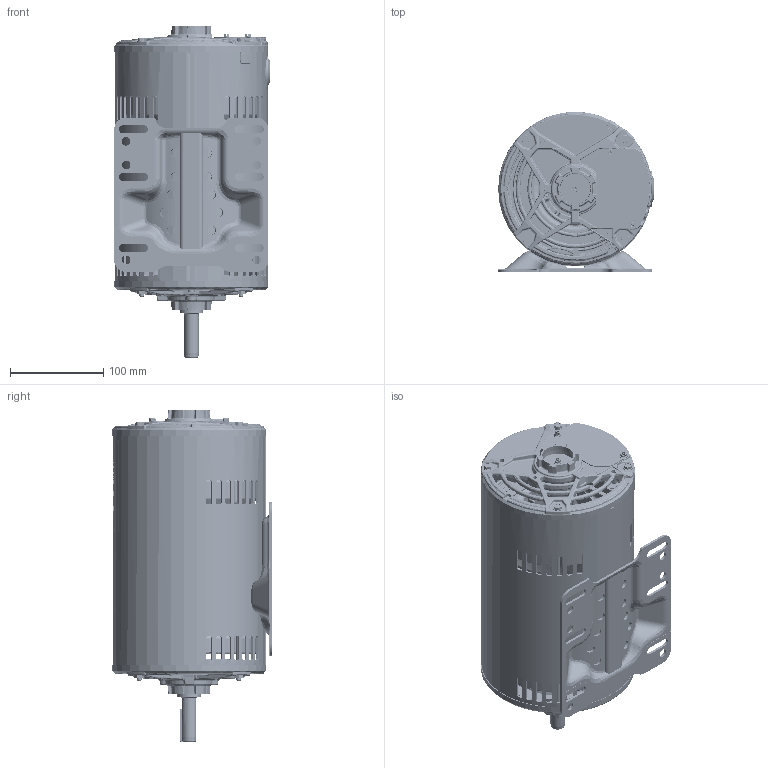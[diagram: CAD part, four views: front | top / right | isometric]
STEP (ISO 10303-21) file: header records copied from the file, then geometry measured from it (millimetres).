
FILE_DESCRIPTION (( 'STEP AP203' ), '1' );
FILE_NAME ('OL56100630-001_RevA.STEP', '2019-05-16T09:13:08', ( '' ), ( '' ), 'SwSTEP 2.0', 'SolidWorks 2015', '' );
FILE_SCHEMA (( 'CONFIG_CONTROL_DESIGN' ));
Length unit declared in the file: inch
Products named in the file (1): OL56100630-001_RevA
Bounding box: 166.53 x 171.43 x 355.22 mm (x, y, z)
Volume: 3099308.7 mm3; surface area: 1176170.4 mm2
Topology: 38 solids, 38 shells, 10838 faces, 26903 edges, 16004 vertices
Faces by surface type: bspline 4099, plane 2249, cylinder 1864, torus 1287, cone 865, sphere 474
Entity records: 450952 total; most frequent: CARTESIAN_POINT 224690, ORIENTED_EDGE 53242, DIRECTION 40073, EDGE_CURVE 26621, AXIS2_PLACEMENT_3D 16679, VERTEX_POINT 15988, EDGE_LOOP 11307, ADVANCED_FACE 10838
